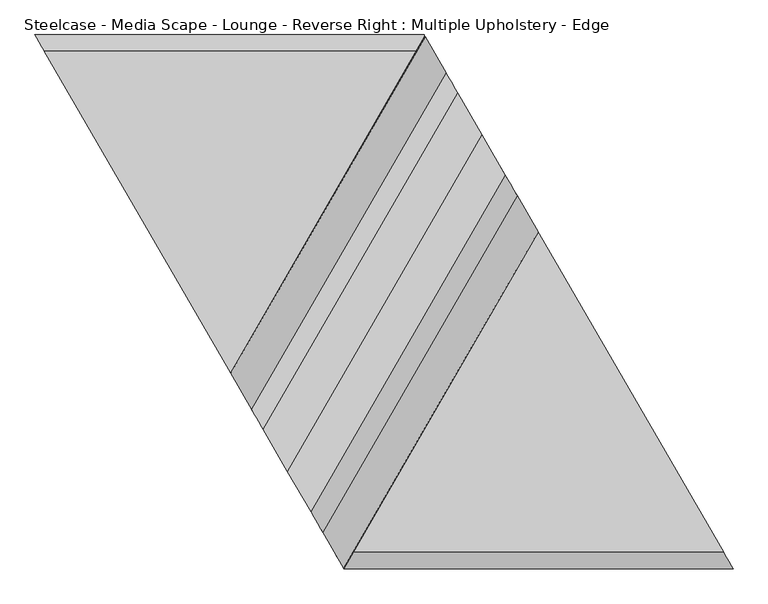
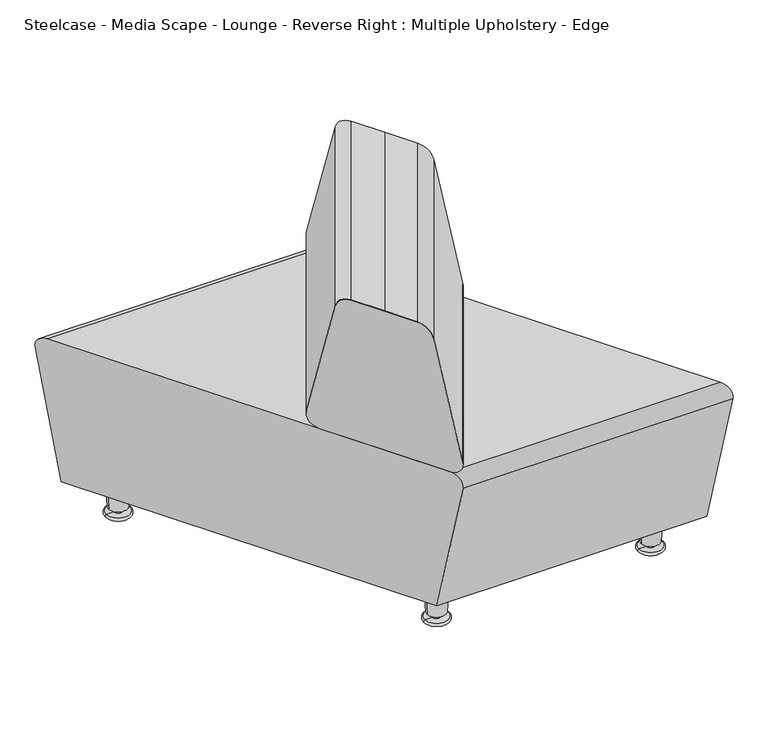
"""IFC4 building model written with IfcOpenShell, lengths in millimetres: furniture geometry, Steelcase - Media Scape - Lounge - Reverse Right : Multiple Upholstery - Edge."""

from ifc_helpers import new_model, si_unit, point, frame, origin, place, context, project, spatial, polyline, circle_curve, ellipse_curve, trimmed, source, transform, mapped, element, save
from ifc_brep_helpers import plane_surface, cylinder_surface, revolved_surface, advanced_brep


def steelcase_media_scape_lounge_reverse_right_multiple_dd48c680(model_context):
    return source(origin(), model_context, "Body", "AdvancedBrep", [
        advanced_brep(
        [(-695.4343233, 152.5570499, 735.3488109), (-392.1305336, 677.8946237, 735.3488109), (-429.8477806, 743.0982149, 735.3488109), (-733.1515703, 217.760641, 735.3488109), (-447.9542677, 774.3997566, 709.8713984), (-751.2580574, 249.0621827, 709.8713984), (-447.3540891, 773.3621994, 709.8713984), (-750.6578788, 248.0246256, 709.8713984), (-429.8477806, 743.0982149, 734.3328109), (-733.1515703, 217.760641, 734.3328109), (-392.1305336, 677.8946237, 734.3328109), (-695.4343233, 152.5570499, 734.3328109), (-355.1946098, 614.041743, 734.3328109), (-658.4983994, 88.7041692, 734.3328109), (-337.6629318, 583.7339011, 709.6642052), (-640.9667215, 58.3963272, 709.6642052), (-337.063593, 582.6977957, 709.6642052), (-640.3673827, 57.3602219, 709.6642052), (-355.1946098, 614.041743, 735.3488109), (-658.4983994, 88.7041692, 735.3488109)],
        [
            (0, 1),
            (1, 2),
            (2, 3),
            (3, 0),
            (2, 4, ellipse_curve(frame((-429.8477806, 743.0982149, 703.3448109), z_axis=(-0.8656115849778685, -0.5007160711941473, 0.0), x_axis=(0.5007160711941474, -0.8656115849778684, 0.0)), 36.9374112, 32.004)),
            (4, 5),
            (5, 3, ellipse_curve(frame((-733.1515703, 217.760641, 703.3448109), z_axis=(0.8656115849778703, 0.5007160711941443, 0.0), x_axis=(0.5007160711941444, -0.8656115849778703, 0.0)), 36.9374112, 32.004)),
            (4, 6),
            (6, 7),
            (7, 5),
            (6, 8, ellipse_curve(frame((-429.8477806, 743.0982149, 703.3448109), z_axis=(0.8656115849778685, 0.5007160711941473, 0.0), x_axis=(-0.5007160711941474, 0.8656115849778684, 0.0)), 35.764795, 30.988)),
            (8, 9),
            (9, 7, ellipse_curve(frame((-733.1515703, 217.760641, 703.3448109), z_axis=(-0.8656115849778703, -0.5007160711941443, 0.0), x_axis=(-0.5007160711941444, 0.8656115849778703, 0.0)), 35.764795, 30.988)),
            (8, 10),
            (10, 11),
            (11, 9),
            (10, 12),
            (12, 13),
            (13, 11),
            (12, 14, ellipse_curve(frame((-355.1946098, 614.041743, 703.3448109), z_axis=(0.8656115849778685, 0.5007160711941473, 0.0), x_axis=(-0.5007160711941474, 0.8656115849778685, 0.0)), 35.764795, 30.988)),
            (14, 15),
            (15, 13, ellipse_curve(frame((-658.4983994, 88.7041692, 703.3448109), z_axis=(-0.8656115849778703, -0.5007160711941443, 0.0), x_axis=(-0.5007160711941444, 0.8656115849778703, 0.0)), 35.764795, 30.988)),
            (14, 16),
            (16, 17),
            (17, 15),
            (16, 18, ellipse_curve(frame((-355.1946098, 614.041743, 703.3448109), z_axis=(-0.8656115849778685, -0.5007160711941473, 0.0), x_axis=(0.5007160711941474, -0.8656115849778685, 0.0)), 36.9374112, 32.004)),
            (18, 19),
            (19, 17, ellipse_curve(frame((-658.4983994, 88.7041692, 703.3448109), z_axis=(0.8656115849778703, 0.5007160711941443, 0.0), x_axis=(0.5007160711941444, -0.8656115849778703, 0.0)), 36.9374112, 32.004)),
            (0, 19),
            (18, 1),
        ],
        [
            plane_surface(frame((-739.8122575, 75.6922131, 735.3488109), z_axis=(0.0, 0.0, 1.0), x_axis=(0.4999999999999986, 0.8660254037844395, 0.0))),
            cylinder_surface(frame((-403.3023082, 789.0763219, 703.3448109), z_axis=(-0.49999999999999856, -0.8660254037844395, 0.0), x_axis=(-0.8660254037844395, 0.49999999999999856, 0.0)), 32.004),
            plane_surface(frame((-823.4680063, 123.9908822, 709.8713984), z_axis=(0.0, 0.0, -1.0), x_axis=(0.49999999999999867, 0.8660254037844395, 0.0))),
            revolved_surface(polyline([(-447.7557882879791, 774.0566358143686, 703.3448109), (-768.916353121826, 217.79022013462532, 703.3448109)]), (-403.3023082, 789.0763219, 703.3448109), (0.49999999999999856, 0.8660254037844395, 0.0)),
            plane_surface(frame((-796.3341759, 108.325158, 734.3328109), z_axis=(0.0, 0.0, -1.0), x_axis=(0.49999999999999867, 0.8660254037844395, 0.0))),
            plane_surface(frame((-739.8122575, 75.6922131, 734.3328109), z_axis=(0.0, 0.0, -1.0), x_axis=(0.4999999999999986, 0.8660254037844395, 0.0))),
            revolved_surface(polyline([(-319.42982696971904, 614.0121638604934, 703.3448109), (-640.5903917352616, 57.74574829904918, 703.3448109)]), (-291.4293384, 724.4864327, 703.3448109), (0.4999999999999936, 0.8660254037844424, 0.0)),
            plane_surface(frame((-658.1887672, 28.566869, 709.6642052), z_axis=(0.0, 0.0, -1.0000000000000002), x_axis=(0.49999999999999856, 0.8660254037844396, 0.0))),
            cylinder_surface(frame((-291.4293384, 724.4864327, 703.3448109), z_axis=(-0.4999999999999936, -0.8660254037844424, 0.0), x_axis=(0.8660254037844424, -0.4999999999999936, 0.0)), 32.004),
            plane_surface(frame((-684.4612062, 43.7352688, 735.3488109), z_axis=(0.0, 0.0, 1.0), x_axis=(0.4999999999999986, 0.8660254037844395, 0.0))),
            plane_surface(frame((-281.4622448, -563.0960868, 914.4), z_axis=(-0.8656115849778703, -0.5007160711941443, 0.0), x_axis=(0.0, 0.0, -1.0))),
            plane_surface(frame((-511.7600957, 884.7039132, 914.4), z_axis=(0.8656115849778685, 0.5007160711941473, 0.0), x_axis=(0.0, 0.0, -1.0))),
        ],
        [
            (0, [[1, 2, 3, 4]]),
            (1, [[-3, 5, 6, 7]]),
            (2, [[-6, 8, 9, 10]]),
            (3, [[-9, 11, 12, 13]]),
            (4, [[-12, 14, 15, 16]]),
            (5, [[-15, 17, 18, 19]]),
            (6, [[-18, 20, 21, 22]]),
            (7, [[-21, 23, 24, 25]]),
            (8, [[-24, 26, 27, 28]]),
            (9, [[-1, 29, -27, 30]]),
            (10, [[-4, -7, -10, -13, -16, -19, -22, -25, -28, -29]]),
            (11, [[-2, -30, -26, -23, -20, -17, -14, -11, -8, -5]]),
        ],
    ),
        advanced_brep(
        [(-733.1515703, 217.760641, 734.4994984), (-429.8477806, 743.0982149, 734.4994984), (-447.8105654, 774.1513316, 709.2242876), (-751.1143551, 248.8137578, 709.2242876), (-480.6348772, 830.896274, 436.5550069), (-783.9386669, 305.5587001, 436.5550069), (-465.4772182, 804.6925109, 404.2995226), (-768.7810079, 279.3549371, 404.2995226), (-392.5844661, 678.6793583, 404.2995226), (-695.8882558, 153.3417845, 404.2995226), (-319.5651722, 552.447447, 404.2995226), (-622.8689619, 27.1098731, 404.2995226), (-304.4075131, 526.243684, 436.5550069), (-607.7113028, 0.9061101, 436.5550069), (-337.231825, 582.9886263, 709.2242876), (-640.5356147, 57.6510524, 709.2242876), (-355.1946098, 614.041743, 734.4994984), (-658.4983994, 88.7041692, 734.4994984), (-392.1305336, 677.8946237, 734.4994984), (-695.4343233, 152.5570499, 734.4994984)],
        [
            (0, 1),
            (1, 2, ellipse_curve(frame((-429.8477806, 743.0982149, 702.7494984), z_axis=(-0.8656115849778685, -0.5007160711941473, 0.0), x_axis=(0.5007160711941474, -0.8656115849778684, 0.0)), 36.6442572, 31.75)),
            (2, 3),
            (3, 0, ellipse_curve(frame((-733.1515703, 217.760641, 702.7494984), z_axis=(0.8656115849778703, 0.5007160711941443, 0.0), x_axis=(0.5007160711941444, -0.8656115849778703, 0.0)), 36.6442572, 31.75)),
            (2, 4),
            (4, 5),
            (5, 3),
            (4, 6, ellipse_curve(frame((-465.4772182, 804.6925109, 431.0913414), z_axis=(-0.8656115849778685, -0.5007160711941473, 0.0), x_axis=(0.5007160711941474, -0.8656115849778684, 0.0)), 30.9217732, 26.7918188)),
            (6, 7),
            (7, 5, ellipse_curve(frame((-768.7810079, 279.3549371, 431.0913414), z_axis=(0.8656115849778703, 0.5007160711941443, 0.0), x_axis=(0.5007160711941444, -0.8656115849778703, 0.0)), 30.9217732, 26.7918188)),
            (6, 8),
            (8, 9),
            (9, 7),
            (8, 10),
            (10, 11),
            (11, 9),
            (10, 12, ellipse_curve(frame((-319.5651722, 552.447447, 431.0913414), z_axis=(-0.8656115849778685, -0.5007160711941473, 0.0), x_axis=(0.5007160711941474, -0.8656115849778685, 0.0)), 30.9217732, 26.7918188)),
            (12, 13),
            (13, 11, ellipse_curve(frame((-622.8689619, 27.1098731, 431.0913414), z_axis=(0.8656115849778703, 0.5007160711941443, 0.0), x_axis=(0.5007160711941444, -0.8656115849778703, 0.0)), 30.9217732, 26.7918188)),
            (12, 14),
            (14, 15),
            (15, 13),
            (14, 16, ellipse_curve(frame((-355.1946098, 614.041743, 702.7494984), z_axis=(-0.8656115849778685, -0.5007160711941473, 0.0), x_axis=(0.5007160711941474, -0.8656115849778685, 0.0)), 36.6442572, 31.75)),
            (16, 17),
            (17, 15, ellipse_curve(frame((-658.4983994, 88.7041692, 702.7494984), z_axis=(0.8656115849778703, 0.5007160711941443, 0.0), x_axis=(0.5007160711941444, -0.8656115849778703, 0.0)), 36.6442572, 31.75)),
            (16, 18),
            (18, 19),
            (19, 17),
            (0, 19),
            (18, 1),
        ],
        [
            cylinder_surface(frame((-403.3023082, 789.0763219, 702.7494984), z_axis=(-0.49999999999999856, -0.8660254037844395, 0.0), x_axis=(-0.8660254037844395, 0.49999999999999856, 0.0)), 31.75),
            plane_surface(frame((-823.2526585, 123.8665511, 709.2242876), z_axis=(-0.8478262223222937, 0.489492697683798, 0.20393036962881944), x_axis=(0.49999999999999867, 0.8660254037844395, 0.0))),
            cylinder_surface(frame((-456.6954989, 819.902895, 431.0913414), z_axis=(-0.49999999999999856, -0.8660254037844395, 0.0), x_axis=(-0.8660254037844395, 0.49999999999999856, 0.0)), 26.7918188),
            plane_surface(frame((-849.7273666, 139.151731, 404.2995226), z_axis=(0.0, 0.0, -1.0), x_axis=(0.4999999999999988, 0.8660254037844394, 0.0))),
            plane_surface(frame((-740.4925069, 76.0849553, 404.2995226), z_axis=(0.0, 0.0, -1.0), x_axis=(0.49999999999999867, 0.8660254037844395, 0.0))),
            cylinder_surface(frame((-238.0361477, 693.6598597, 431.0913414), z_axis=(-0.4999999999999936, -0.8660254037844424, 0.0), x_axis=(0.8660254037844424, -0.4999999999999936, 0.0)), 26.7918188),
            plane_surface(frame((-608.353209, -0.2057039, 436.5550069), z_axis=(0.8478262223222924, -0.4894926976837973, 0.20393036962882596), x_axis=(0.49999999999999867, 0.8660254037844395, 0.0))),
            cylinder_surface(frame((-291.4293384, 724.4864327, 702.7494984), z_axis=(-0.4999999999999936, -0.8660254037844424, 0.0), x_axis=(0.8660254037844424, -0.4999999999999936, 0.0)), 31.75),
            plane_surface(frame((-684.4612062, 43.7352688, 734.4994984), z_axis=(0.0, 0.0, 1.0), x_axis=(0.4999999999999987, 0.8660254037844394, 0.0))),
            plane_surface(frame((-739.8122575, 75.6922131, 734.4994984), z_axis=(0.0, 0.0, 1.0), x_axis=(0.4999999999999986, 0.8660254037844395, 0.0))),
            plane_surface(frame((-281.4622448, -563.0960868, 914.4), z_axis=(-0.8656115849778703, -0.5007160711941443, 0.0), x_axis=(0.0, 0.0, -1.0))),
            plane_surface(frame((-511.7600957, 884.7039132, 914.4), z_axis=(0.8656115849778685, 0.5007160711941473, 0.0), x_axis=(0.0, 0.0, -1.0))),
        ],
        [
            (0, [[1, 2, 3, 4]]),
            (1, [[-3, 5, 6, 7]]),
            (2, [[-6, 8, 9, 10]]),
            (3, [[-9, 11, 12, 13]]),
            (4, [[-12, 14, 15, 16]]),
            (5, [[-15, 17, 18, 19]]),
            (6, [[-18, 20, 21, 22]]),
            (7, [[-21, 23, 24, 25]]),
            (8, [[-24, 26, 27, 28]]),
            (9, [[-1, 29, -27, 30]]),
            (10, [[-4, -7, -10, -13, -16, -19, -22, -25, -28, -29]]),
            (11, [[-2, -30, -26, -23, -20, -17, -14, -11, -8, -5]]),
        ],
    ),
        advanced_brep(
        [(-1059.8466558, 782.5339068, 74.676), (-452.6594956, 782.5339068, 74.676), (-29.7158278, 51.3711588, 74.676), (-636.9029881, 51.3711588, 74.676), (-0.234325, 0.4050887, 374.7917281), (-607.4214852, 0.4050887, 374.7917281), (-14.7196556, 25.4465658, 404.4443065), (-621.9068159, 25.4465658, 404.4443065), (-467.6556677, 808.4584998, 404.4443065), (-1074.842828, 808.4584998, 404.4443065), (-482.1409984, 833.4999769, 374.7917281), (-1089.3281586, 833.4999769, 374.7917281)],
        [
            (0, 1),
            (1, 2),
            (2, 3),
            (3, 0),
            (2, 4),
            (4, 5),
            (5, 3),
            (4, 6, ellipse_curve(frame((-14.7196556, 25.4465658, 379.0443065), z_axis=(-0.8656115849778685, -0.5007160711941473, 0.0), x_axis=(-0.5007160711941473, 0.8656115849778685, 0.0)), 29.343415, 25.4)),
            (6, 7),
            (7, 5, ellipse_curve(frame((-621.9068159, 25.4465658, 379.0443065), z_axis=(0.8656115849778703, 0.5007160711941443, 0.0), x_axis=(-0.5007160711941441, 0.8656115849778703, 0.0)), 29.343415, 25.4)),
            (6, 8),
            (8, 9),
            (9, 7),
            (8, 10, ellipse_curve(frame((-467.6556677, 808.4584998, 379.0443065), z_axis=(-0.8656115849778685, -0.5007160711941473, 0.0), x_axis=(-0.5007160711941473, 0.8656115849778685, 0.0)), 29.343415, 25.4)),
            (10, 11),
            (11, 9, ellipse_curve(frame((-1074.842828, 808.4584998, 379.0443065), z_axis=(0.8656115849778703, 0.5007160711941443, 0.0), x_axis=(-0.5007160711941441, 0.8656115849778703, 0.0)), 29.343415, 25.4)),
            (0, 11),
            (10, 1),
        ],
        [
            plane_surface(frame((-1094.6230669, 782.5339068, 74.676), z_axis=(0.0, 0.0, -1.0), x_axis=(1.0, 0.0, 0.0))),
            plane_surface(frame((-1094.6230669, 51.3711588, 74.676), z_axis=(0.0, -0.9858849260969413, -0.16742434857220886), x_axis=(1.0, 0.0, 0.0))),
            cylinder_surface(frame((0.0, 25.4465658, 379.0443065), z_axis=(-1.0, 0.0, 0.0), x_axis=(0.0, -1.0, 0.0)), 25.4),
            plane_surface(frame((-1094.6230669, 25.4465658, 404.4443065), z_axis=(0.0, 0.0, 1.0), x_axis=(1.0, 0.0, 0.0))),
            cylinder_surface(frame((0.0, 808.4584998, 379.0443065), z_axis=(-1.0, 0.0, 0.0), x_axis=(0.0, 1.0, 0.0)), 25.4),
            plane_surface(frame((-1094.6230669, 833.4999769, 374.7917281), z_axis=(0.0, 0.9858849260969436, -0.16742434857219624), x_axis=(1.0, 0.0, 0.0))),
            plane_surface(frame((-281.4622448, -563.0960868, 914.4), z_axis=(-0.8656115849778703, -0.5007160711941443, 0.0), x_axis=(0.0, 0.0, -1.0))),
            plane_surface(frame((-511.7600957, 884.7039132, 914.4), z_axis=(0.8656115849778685, 0.5007160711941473, 0.0), x_axis=(0.0, 0.0, -1.0))),
        ],
        [
            (0, [[1, 2, 3, 4]]),
            (1, [[-3, 5, 6, 7]]),
            (2, [[-6, 8, 9, 10]]),
            (3, [[-9, 11, 12, 13]]),
            (4, [[-12, 14, 15, 16]]),
            (5, [[-1, 17, -15, 18]]),
            (6, [[-4, -7, -10, -13, -16, -17]]),
            (7, [[-2, -18, -14, -11, -8, -5]]),
        ],
    ),
        advanced_brep(
        [(-943.0462782, 727.1583042, 17.057519), (-984.9565107, 727.1583042, 17.057519), (-987.7883146, 727.1583042, 74.1561731), (-940.2144743, 727.1583042, 74.1561731), (-954.4763944, 727.1583042, 17.057519), (-973.5263944, 727.1583042, 17.057519), (-954.4763944, 727.1583042, 6.3788302), (-973.5263944, 727.1583042, 6.3788302), (-937.9477522, 727.1583042, 6.3788302), (-990.0550367, 727.1583042, 6.3788302), (-937.9477522, 727.1583042, 0.0), (-990.0550367, 727.1583042, 0.0), (-964.0013944, 727.1583042, 0.0), (-964.0013944, 727.1583042, 74.1561731)],
        [
            (0, 1, circle_curve(frame((-964.0013944, 727.1583042, 17.057519), z_axis=(0.0, 0.0, 1.0), x_axis=(-1.0, 0.0, 0.0)), 20.9551163)),
            (1, 2),
            (2, 3, circle_curve(frame((-964.0013944, 727.1583042, 74.1561731), z_axis=(0.0, 0.0, -1.0), x_axis=(-1.0, 0.0, 0.0)), 23.7869202)),
            (3, 0),
            (1, 0, circle_curve(frame((-964.0013944, 727.1583042, 17.057519), z_axis=(0.0, 0.0, 1.0), x_axis=(-1.0, 0.0, 0.0)), 20.9551163)),
            (3, 2, circle_curve(frame((-964.0013944, 727.1583042, 74.1561731), z_axis=(0.0, 0.0, -1.0), x_axis=(-1.0, 0.0, 0.0)), 23.7869202)),
            (0, 4),
            (4, 5, circle_curve(frame((-964.0013944, 727.1583042, 17.057519), z_axis=(0.0, 0.0, 1.0), x_axis=(-1.0, 0.0, 0.0)), 9.525)),
            (5, 1),
            (5, 4, circle_curve(frame((-964.0013944, 727.1583042, 17.057519), z_axis=(0.0, 0.0, 1.0), x_axis=(-1.0, 0.0, 0.0)), 9.525)),
            (4, 6),
            (6, 7, circle_curve(frame((-964.0013944, 727.1583042, 6.3788302), z_axis=(0.0, 0.0, 1.0), x_axis=(-1.0, 0.0, 0.0)), 9.525)),
            (7, 5),
            (7, 6, circle_curve(frame((-964.0013944, 727.1583042, 6.3788302), z_axis=(0.0, 0.0, 1.0), x_axis=(-1.0, 0.0, 0.0)), 9.525)),
            (6, 8),
            (8, 9, circle_curve(frame((-964.0013944, 727.1583042, 6.3788302), z_axis=(0.0, 0.0, 1.0), x_axis=(-1.0, 0.0, 0.0)), 26.0536423)),
            (9, 7),
            (9, 8, circle_curve(frame((-964.0013944, 727.1583042, 6.3788302), z_axis=(0.0, 0.0, 1.0), x_axis=(-1.0, 0.0, 0.0)), 26.0536423)),
            (8, 10, circle_curve(frame((-937.9477522, 727.1583042, 3.1894151), z_axis=(0.0, 1.0, 0.0), x_axis=(1.0, 0.0, 0.0)), 3.1894151)),
            (10, 11, circle_curve(frame((-964.0013944, 727.1583042, 0.0), z_axis=(0.0, 0.0, 1.0), x_axis=(-1.0, 0.0, 0.0)), 26.0536423)),
            (11, 9, circle_curve(frame((-990.0550367, 727.1583042, 3.1894151), z_axis=(0.0, 1.0, 0.0), x_axis=(-1.0, 0.0, 0.0)), 3.1894151)),
            (11, 10, circle_curve(frame((-964.0013944, 727.1583042, 0.0), z_axis=(0.0, 0.0, 1.0), x_axis=(-1.0, 0.0, 0.0)), 26.0536423)),
            (10, 12),
            (12, 11),
            (2, 13),
            (13, 3),
        ],
        [
            revolved_surface(polyline([(-987.7883146, 727.1583042, 74.1561731), (-984.9565107, 727.1583042, 17.057519)]), (-964.0013944, 727.1583042, 61.4561731), (0.0, 0.0, -1.0)),
            plane_surface(frame((-964.0013944, 727.1583042, 17.057519), z_axis=(0.0, 0.0, -1.0), x_axis=(-1.0, 0.0, 0.0))),
            cylinder_surface(frame((-964.0013944, 727.1583042, 61.4561731), z_axis=(0.0, 0.0, -1.0), x_axis=(-1.0, 0.0, 0.0)), 9.525),
            plane_surface(frame((-964.0013944, 727.1583042, 6.3788302), z_axis=(0.0, 0.0, 1.0), x_axis=(-1.0, 0.0, 0.0))),
            revolved_surface(trimmed(ellipse_curve(frame((-990.0550367, 727.1583042, 3.1894151), z_axis=(0.0, -1.0, 0.0), x_axis=(-1.0, 0.0, 0.0)), 3.1894151, 3.1894151), [point((-990.0550367, 727.1583042, 6.3788302))], [point((-990.0550367, 727.1583042, 0.0))], True, "CARTESIAN"), (-964.0013944, 727.1583042, 61.4561731), (0.0, 0.0, -1.0)),
            plane_surface(frame((-964.0013944, 727.1583042, 0.0), z_axis=(0.0, 0.0, -1.0), x_axis=(-1.0, 0.0, 0.0))),
            plane_surface(frame((-964.0013944, 727.1583042, 74.1561731), z_axis=(0.0, 0.0, 1.0), x_axis=(-1.0, 0.0, 0.0))),
        ],
        [
            (0, [[1, 2, 3, 4]]),
            (0, [[-2, 5, -4, 6]]),
            (1, [[-1, 7, 8, 9]]),
            (1, [[-5, -9, 10, -7]]),
            (2, [[-8, 11, 12, 13]]),
            (2, [[-10, -13, 14, -11]]),
            (3, [[-12, 15, 16, 17]]),
            (3, [[-14, -17, 18, -15]]),
            (4, [[-16, 19, 20, 21]]),
            (4, [[-18, -21, 22, -19]]),
            (5, [[-20, 23, 24]]),
            (5, [[-22, -24, -23]]),
            (6, [[-3, 25, 26]]),
            (6, [[-6, -26, -25]]),
        ],
    ),
        advanced_brep(
        [(-461.2460355, 727.1583042, 17.057519), (-503.1562681, 727.1583042, 17.057519), (-505.988072, 727.1583042, 74.1561731), (-458.4142317, 727.1583042, 74.1561731), (-472.6761518, 727.1583042, 17.057519), (-491.7261518, 727.1583042, 17.057519), (-472.6761518, 727.1583042, 6.3788302), (-491.7261518, 727.1583042, 6.3788302), (-456.1475095, 727.1583042, 6.3788302), (-508.2547941, 727.1583042, 6.3788302), (-456.1475095, 727.1583042, 0.0), (-508.2547941, 727.1583042, 0.0), (-482.2011518, 727.1583042, 0.0), (-482.2011518, 727.1583042, 74.1561731)],
        [
            (0, 1, circle_curve(frame((-482.2011518, 727.1583042, 17.057519), z_axis=(0.0, 0.0, 1.0), x_axis=(-1.0, 0.0, 0.0)), 20.9551163)),
            (1, 2),
            (2, 3, circle_curve(frame((-482.2011518, 727.1583042, 74.1561731), z_axis=(0.0, 0.0, -1.0), x_axis=(-1.0, 0.0, 0.0)), 23.7869202)),
            (3, 0),
            (1, 0, circle_curve(frame((-482.2011518, 727.1583042, 17.057519), z_axis=(0.0, 0.0, 1.0), x_axis=(-1.0, 0.0, 0.0)), 20.9551163)),
            (3, 2, circle_curve(frame((-482.2011518, 727.1583042, 74.1561731), z_axis=(0.0, 0.0, -1.0), x_axis=(-1.0, 0.0, 0.0)), 23.7869202)),
            (0, 4),
            (4, 5, circle_curve(frame((-482.2011518, 727.1583042, 17.057519), z_axis=(0.0, 0.0, 1.0), x_axis=(-1.0, 0.0, 0.0)), 9.525)),
            (5, 1),
            (5, 4, circle_curve(frame((-482.2011518, 727.1583042, 17.057519), z_axis=(0.0, 0.0, 1.0), x_axis=(-1.0, 0.0, 0.0)), 9.525)),
            (4, 6),
            (6, 7, circle_curve(frame((-482.2011518, 727.1583042, 6.3788302), z_axis=(0.0, 0.0, 1.0), x_axis=(-1.0, 0.0, 0.0)), 9.525)),
            (7, 5),
            (7, 6, circle_curve(frame((-482.2011518, 727.1583042, 6.3788302), z_axis=(0.0, 0.0, 1.0), x_axis=(-1.0, 0.0, 0.0)), 9.525)),
            (6, 8),
            (8, 9, circle_curve(frame((-482.2011518, 727.1583042, 6.3788302), z_axis=(0.0, 0.0, 1.0), x_axis=(-1.0, 0.0, 0.0)), 26.0536423)),
            (9, 7),
            (9, 8, circle_curve(frame((-482.2011518, 727.1583042, 6.3788302), z_axis=(0.0, 0.0, 1.0), x_axis=(-1.0, 0.0, 0.0)), 26.0536423)),
            (8, 10, circle_curve(frame((-456.1475095, 727.1583042, 3.1894151), z_axis=(0.0, 1.0, 0.0), x_axis=(1.0, 0.0, 0.0)), 3.1894151)),
            (10, 11, circle_curve(frame((-482.2011518, 727.1583042, 0.0), z_axis=(0.0, 0.0, 1.0), x_axis=(-1.0, 0.0, 0.0)), 26.0536423)),
            (11, 9, circle_curve(frame((-508.2547941, 727.1583042, 3.1894151), z_axis=(0.0, 1.0, 0.0), x_axis=(-1.0, 0.0, 0.0)), 3.1894151)),
            (11, 10, circle_curve(frame((-482.2011518, 727.1583042, 0.0), z_axis=(0.0, 0.0, 1.0), x_axis=(-1.0, 0.0, 0.0)), 26.0536423)),
            (10, 12),
            (12, 11),
            (2, 13),
            (13, 3),
        ],
        [
            revolved_surface(polyline([(-505.988072, 727.1583042, 74.1561731), (-503.1562681, 727.1583042, 17.057519)]), (-482.2011518, 727.1583042, 61.4561731), (0.0, 0.0, -1.0)),
            plane_surface(frame((-482.2011518, 727.1583042, 17.057519), z_axis=(0.0, 0.0, -1.0), x_axis=(-1.0, 0.0, 0.0))),
            cylinder_surface(frame((-482.2011518, 727.1583042, 61.4561731), z_axis=(0.0, 0.0, -1.0), x_axis=(-1.0, 0.0, 0.0)), 9.525),
            plane_surface(frame((-482.2011518, 727.1583042, 6.3788302), z_axis=(0.0, 0.0, 1.0), x_axis=(-1.0, 0.0, 0.0))),
            revolved_surface(trimmed(ellipse_curve(frame((-508.2547941, 727.1583042, 3.1894151), z_axis=(0.0, -1.0, 0.0), x_axis=(-1.0, 0.0, 0.0)), 3.1894151, 3.1894151), [point((-508.2547941, 727.1583042, 6.3788302))], [point((-508.2547941, 727.1583042, 0.0))], True, "CARTESIAN"), (-482.2011518, 727.1583042, 61.4561731), (0.0, 0.0, -1.0)),
            plane_surface(frame((-482.2011518, 727.1583042, 0.0), z_axis=(0.0, 0.0, -1.0), x_axis=(-1.0, 0.0, 0.0))),
            plane_surface(frame((-482.2011518, 727.1583042, 74.1561731), z_axis=(0.0, 0.0, 1.0), x_axis=(-1.0, 0.0, 0.0))),
        ],
        [
            (0, [[1, 2, 3, 4]]),
            (0, [[-2, 5, -4, 6]]),
            (1, [[-1, 7, 8, 9]]),
            (1, [[-5, -9, 10, -7]]),
            (2, [[-8, 11, 12, 13]]),
            (2, [[-10, -13, 14, -11]]),
            (3, [[-12, 15, 16, 17]]),
            (3, [[-14, -17, 18, -15]]),
            (4, [[-16, 19, 20, 21]]),
            (4, [[-18, -21, 22, -19]]),
            (5, [[-20, 23, 24]]),
            (5, [[-22, -24, -23]]),
            (6, [[-3, 25, 26]]),
            (6, [[-6, -26, -25]]),
        ],
    ),
        advanced_brep(
        [(-584.810005, 106.9669449, 17.057519), (-626.7202375, 106.9669449, 17.057519), (-629.5520414, 106.9669449, 74.1561731), (-581.9782011, 106.9669449, 74.1561731), (-596.2401212, 106.9669449, 17.057519), (-615.2901212, 106.9669449, 17.057519), (-596.2401212, 106.9669449, 6.3788302), (-615.2901212, 106.9669449, 6.3788302), (-579.711479, 106.9669449, 6.3788302), (-631.8187635, 106.9669449, 6.3788302), (-579.711479, 106.9669449, 0.0), (-631.8187635, 106.9669449, 0.0), (-605.7651212, 106.9669449, 0.0), (-605.7651212, 106.9669449, 74.1561731)],
        [
            (0, 1, circle_curve(frame((-605.7651212, 106.9669449, 17.057519), z_axis=(0.0, 0.0, 1.0), x_axis=(-1.0, 0.0, 0.0)), 20.9551163)),
            (1, 2),
            (2, 3, circle_curve(frame((-605.7651212, 106.9669449, 74.1561731), z_axis=(0.0, 0.0, -1.0), x_axis=(-1.0, 0.0, 0.0)), 23.7869202)),
            (3, 0),
            (1, 0, circle_curve(frame((-605.7651212, 106.9669449, 17.057519), z_axis=(0.0, 0.0, 1.0), x_axis=(-1.0, 0.0, 0.0)), 20.9551163)),
            (3, 2, circle_curve(frame((-605.7651212, 106.9669449, 74.1561731), z_axis=(0.0, 0.0, -1.0), x_axis=(-1.0, 0.0, 0.0)), 23.7869202)),
            (0, 4),
            (4, 5, circle_curve(frame((-605.7651212, 106.9669449, 17.057519), z_axis=(0.0, 0.0, 1.0), x_axis=(-1.0, 0.0, 0.0)), 9.525)),
            (5, 1),
            (5, 4, circle_curve(frame((-605.7651212, 106.9669449, 17.057519), z_axis=(0.0, 0.0, 1.0), x_axis=(-1.0, 0.0, 0.0)), 9.525)),
            (4, 6),
            (6, 7, circle_curve(frame((-605.7651212, 106.9669449, 6.3788302), z_axis=(0.0, 0.0, 1.0), x_axis=(-1.0, 0.0, 0.0)), 9.525)),
            (7, 5),
            (7, 6, circle_curve(frame((-605.7651212, 106.9669449, 6.3788302), z_axis=(0.0, 0.0, 1.0), x_axis=(-1.0, 0.0, 0.0)), 9.525)),
            (6, 8),
            (8, 9, circle_curve(frame((-605.7651212, 106.9669449, 6.3788302), z_axis=(0.0, 0.0, 1.0), x_axis=(-1.0, 0.0, 0.0)), 26.0536423)),
            (9, 7),
            (9, 8, circle_curve(frame((-605.7651212, 106.9669449, 6.3788302), z_axis=(0.0, 0.0, 1.0), x_axis=(-1.0, 0.0, 0.0)), 26.0536423)),
            (8, 10, circle_curve(frame((-579.711479, 106.9669449, 3.1894151), z_axis=(0.0, 1.0, 0.0), x_axis=(1.0, 0.0, 0.0)), 3.1894151)),
            (10, 11, circle_curve(frame((-605.7651212, 106.9669449, 0.0), z_axis=(0.0, 0.0, 1.0), x_axis=(-1.0, 0.0, 0.0)), 26.0536423)),
            (11, 9, circle_curve(frame((-631.8187635, 106.9669449, 3.1894151), z_axis=(0.0, 1.0, 0.0), x_axis=(-1.0, 0.0, 0.0)), 3.1894151)),
            (11, 10, circle_curve(frame((-605.7651212, 106.9669449, 0.0), z_axis=(0.0, 0.0, 1.0), x_axis=(-1.0, 0.0, 0.0)), 26.0536423)),
            (10, 12),
            (12, 11),
            (2, 13),
            (13, 3),
        ],
        [
            revolved_surface(polyline([(-629.5520414, 106.9669449, 74.1561731), (-626.7202375, 106.9669449, 17.057519)]), (-605.7651212, 106.9669449, 61.4561731), (0.0, 0.0, -1.0)),
            plane_surface(frame((-605.7651212, 106.9669449, 17.057519), z_axis=(0.0, 0.0, -1.0), x_axis=(-1.0, 0.0, 0.0))),
            cylinder_surface(frame((-605.7651212, 106.9669449, 61.4561731), z_axis=(0.0, 0.0, -1.0), x_axis=(-1.0, 0.0, 0.0)), 9.525),
            plane_surface(frame((-605.7651212, 106.9669449, 6.3788302), z_axis=(0.0, 0.0, 1.0), x_axis=(-1.0, 0.0, 0.0))),
            revolved_surface(trimmed(ellipse_curve(frame((-631.8187635, 106.9669449, 3.1894151), z_axis=(0.0, -1.0, 0.0), x_axis=(-1.0, 0.0, 0.0)), 3.1894151, 3.1894151), [point((-631.8187635, 106.9669449, 6.3788302))], [point((-631.8187635, 106.9669449, 0.0))], True, "CARTESIAN"), (-605.7651212, 106.9669449, 61.4561731), (0.0, 0.0, -1.0)),
            plane_surface(frame((-605.7651212, 106.9669449, 0.0), z_axis=(0.0, 0.0, -1.0), x_axis=(-1.0, 0.0, 0.0))),
            plane_surface(frame((-605.7651212, 106.9669449, 74.1561731), z_axis=(0.0, 0.0, 1.0), x_axis=(-1.0, 0.0, 0.0))),
        ],
        [
            (0, [[1, 2, 3, 4]]),
            (0, [[-2, 5, -4, 6]]),
            (1, [[-1, 7, 8, 9]]),
            (1, [[-5, -9, 10, -7]]),
            (2, [[-8, 11, 12, 13]]),
            (2, [[-10, -13, 14, -11]]),
            (3, [[-12, 15, 16, 17]]),
            (3, [[-14, -17, 18, -15]]),
            (4, [[-16, 19, 20, 21]]),
            (4, [[-18, -21, 22, -19]]),
            (5, [[-20, 23, 24]]),
            (5, [[-22, -24, -23]]),
            (6, [[-3, 25, 26]]),
            (6, [[-6, -26, -25]]),
        ],
    ),
        advanced_brep(
        [(-103.0097624, 106.9669449, 17.057519), (-144.9199949, 106.9669449, 17.057519), (-147.7517988, 106.9669449, 74.1561731), (-100.1779585, 106.9669449, 74.1561731), (-114.4398786, 106.9669449, 17.057519), (-133.4898786, 106.9669449, 17.057519), (-114.4398786, 106.9669449, 6.3788302), (-133.4898786, 106.9669449, 6.3788302), (-97.9112364, 106.9669449, 6.3788302), (-150.0185209, 106.9669449, 6.3788302), (-97.9112364, 106.9669449, 0.0), (-150.0185209, 106.9669449, 0.0), (-123.9648786, 106.9669449, 0.0), (-123.9648786, 106.9669449, 74.1561731)],
        [
            (0, 1, circle_curve(frame((-123.9648786, 106.9669449, 17.057519), z_axis=(0.0, 0.0, 1.0), x_axis=(-1.0, 0.0, 0.0)), 20.9551163)),
            (1, 2),
            (2, 3, circle_curve(frame((-123.9648786, 106.9669449, 74.1561731), z_axis=(0.0, 0.0, -1.0), x_axis=(-1.0, 0.0, 0.0)), 23.7869202)),
            (3, 0),
            (1, 0, circle_curve(frame((-123.9648786, 106.9669449, 17.057519), z_axis=(0.0, 0.0, 1.0), x_axis=(-1.0, 0.0, 0.0)), 20.9551163)),
            (3, 2, circle_curve(frame((-123.9648786, 106.9669449, 74.1561731), z_axis=(0.0, 0.0, -1.0), x_axis=(-1.0, 0.0, 0.0)), 23.7869202)),
            (0, 4),
            (4, 5, circle_curve(frame((-123.9648786, 106.9669449, 17.057519), z_axis=(0.0, 0.0, 1.0), x_axis=(-1.0, 0.0, 0.0)), 9.525)),
            (5, 1),
            (5, 4, circle_curve(frame((-123.9648786, 106.9669449, 17.057519), z_axis=(0.0, 0.0, 1.0), x_axis=(-1.0, 0.0, 0.0)), 9.525)),
            (4, 6),
            (6, 7, circle_curve(frame((-123.9648786, 106.9669449, 6.3788302), z_axis=(0.0, 0.0, 1.0), x_axis=(-1.0, 0.0, 0.0)), 9.525)),
            (7, 5),
            (7, 6, circle_curve(frame((-123.9648786, 106.9669449, 6.3788302), z_axis=(0.0, 0.0, 1.0), x_axis=(-1.0, 0.0, 0.0)), 9.525)),
            (6, 8),
            (8, 9, circle_curve(frame((-123.9648786, 106.9669449, 6.3788302), z_axis=(0.0, 0.0, 1.0), x_axis=(-1.0, 0.0, 0.0)), 26.0536423)),
            (9, 7),
            (9, 8, circle_curve(frame((-123.9648786, 106.9669449, 6.3788302), z_axis=(0.0, 0.0, 1.0), x_axis=(-1.0, 0.0, 0.0)), 26.0536423)),
            (8, 10, circle_curve(frame((-97.9112364, 106.9669449, 3.1894151), z_axis=(0.0, 1.0, 0.0), x_axis=(1.0, 0.0, 0.0)), 3.1894151)),
            (10, 11, circle_curve(frame((-123.9648786, 106.9669449, 0.0), z_axis=(0.0, 0.0, 1.0), x_axis=(-1.0, 0.0, 0.0)), 26.0536423)),
            (11, 9, circle_curve(frame((-150.0185209, 106.9669449, 3.1894151), z_axis=(0.0, 1.0, 0.0), x_axis=(-1.0, 0.0, 0.0)), 3.1894151)),
            (11, 10, circle_curve(frame((-123.9648786, 106.9669449, 0.0), z_axis=(0.0, 0.0, 1.0), x_axis=(-1.0, 0.0, 0.0)), 26.0536423)),
            (10, 12),
            (12, 11),
            (2, 13),
            (13, 3),
        ],
        [
            revolved_surface(polyline([(-147.7517988, 106.9669449, 74.1561731), (-144.9199949, 106.9669449, 17.057519)]), (-123.9648786, 106.9669449, 61.4561731), (0.0, 0.0, -1.0)),
            plane_surface(frame((-123.9648786, 106.9669449, 17.057519), z_axis=(0.0, 0.0, -1.0), x_axis=(-1.0, 0.0, 0.0))),
            cylinder_surface(frame((-123.9648786, 106.9669449, 61.4561731), z_axis=(0.0, 0.0, -1.0), x_axis=(-1.0, 0.0, 0.0)), 9.525),
            plane_surface(frame((-123.9648786, 106.9669449, 6.3788302), z_axis=(0.0, 0.0, 1.0), x_axis=(-1.0, 0.0, 0.0))),
            revolved_surface(trimmed(ellipse_curve(frame((-150.0185209, 106.9669449, 3.1894151), z_axis=(0.0, -1.0, 0.0), x_axis=(-1.0, 0.0, 0.0)), 3.1894151, 3.1894151), [point((-150.0185209, 106.9669449, 6.3788302))], [point((-150.0185209, 106.9669449, 0.0))], True, "CARTESIAN"), (-123.9648786, 106.9669449, 61.4561731), (0.0, 0.0, -1.0)),
            plane_surface(frame((-123.9648786, 106.9669449, 0.0), z_axis=(0.0, 0.0, -1.0), x_axis=(-1.0, 0.0, 0.0))),
            plane_surface(frame((-123.9648786, 106.9669449, 74.1561731), z_axis=(0.0, 0.0, 1.0), x_axis=(-1.0, 0.0, 0.0))),
        ],
        [
            (0, [[1, 2, 3, 4]]),
            (0, [[-2, 5, -4, 6]]),
            (1, [[-1, 7, 8, 9]]),
            (1, [[-5, -9, 10, -7]]),
            (2, [[-8, 11, 12, 13]]),
            (2, [[-10, -13, 14, -11]]),
            (3, [[-12, 15, 16, 17]]),
            (3, [[-14, -17, 18, -15]]),
            (4, [[-16, 19, 20, 21]]),
            (4, [[-18, -21, 22, -19]]),
            (5, [[-20, 23, 24]]),
            (5, [[-22, -24, -23]]),
            (6, [[-3, 25, 26]]),
            (6, [[-6, -26, -25]]),
        ],
    ),
    ])


if __name__ == "__main__":
    model = new_model("IFC4")
    model_context = context("Model", 3, world=origin())
    ifc_project = project(units=[si_unit("LENGTHUNIT", "METRE", prefix="MILLI")], contexts=[model_context])
    site = spatial("IfcSite", under=ifc_project)
    building = spatial("IfcBuilding", under=site)
    placement = place(None, origin())
    steelcase_media_scape_lounge_reverse_right_multiple_shape = steelcase_media_scape_lounge_reverse_right_multiple_dd48c680(model_context)
    element("IfcFurniture", 1, ObjectType="Steelcase - Media Scape - Lounge - Reverse Right : Multiple Upholstery - Edge", at=placement, inside=building, context=model_context, shape_type="MappedRepresentation", body=[
        mapped(steelcase_media_scape_lounge_reverse_right_multiple_shape, transform((0.0, 0.0, 0.0), x_axis=(1.0, 0.0, 0.0), y_axis=(0.0, 1.0, 0.0), z_axis=(0.0, 0.0, 1.0))),
    ])
    save(model, "model.ifc")
